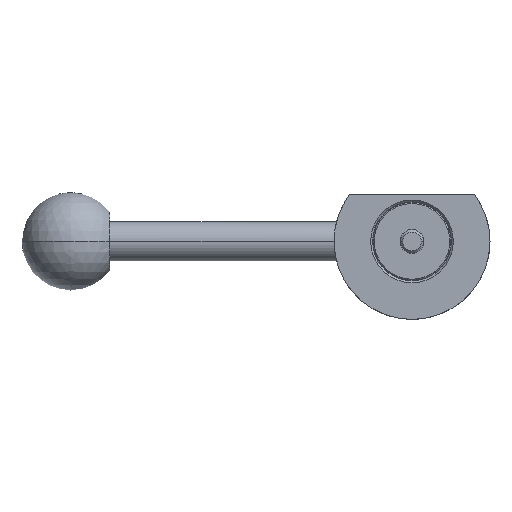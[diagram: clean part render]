
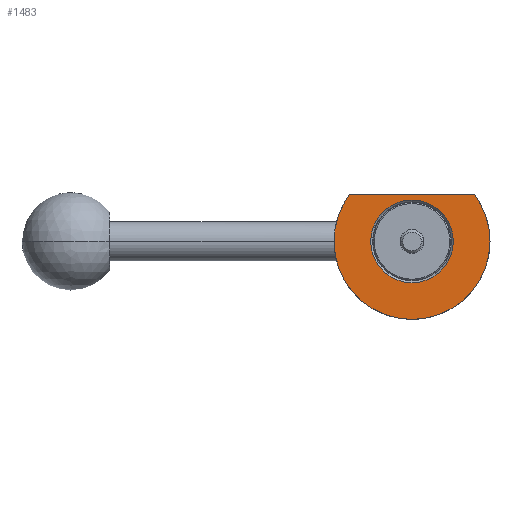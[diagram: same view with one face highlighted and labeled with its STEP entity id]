
A CAD part, front view. The second image highlights one B-rep face of the part: STEP entity #1483.
In plain terms, the highlighted planar face has unit normal (0, -1, 0).
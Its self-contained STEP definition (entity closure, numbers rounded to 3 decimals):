
#4 = EDGE_LOOP ( 'NONE', ( #317, #1073 ) ) ;
#27 = ORIENTED_EDGE ( 'NONE', *, *, #1178, .F. ) ;
#54 = EDGE_CURVE ( 'NONE', #1081, #1891, #519, .T. ) ;
#73 = ORIENTED_EDGE ( 'NONE', *, *, #54, .T. ) ;
#74 = CARTESIAN_POINT ( 'NONE',  ( -10.6, -10., 11.999 ) ) ;
#81 = EDGE_CURVE ( 'NONE', #1081, #1218, #392, .T. ) ;
#119 = DIRECTION ( 'NONE',  ( 0., 1., 0. ) ) ;
#133 = CARTESIAN_POINT ( 'NONE',  ( -16.001, -10., 11.999 ) ) ;
#135 = PLANE ( 'NONE',  #914 ) ;
#204 = ORIENTED_EDGE ( 'NONE', *, *, #81, .F. ) ;
#257 = DIRECTION ( 'NONE',  ( -1., 0., 0. ) ) ;
#312 = AXIS2_PLACEMENT_3D ( 'NONE', #390, #119, #257 ) ;
#317 = ORIENTED_EDGE ( 'NONE', *, *, #507, .T. ) ;
#325 = VECTOR ( 'NONE', #1162, 1000. ) ;
#390 = CARTESIAN_POINT ( 'NONE',  ( 0., -10., 0. ) ) ;
#392 = CIRCLE ( 'NONE', #671, 20. ) ;
#397 = EDGE_LOOP ( 'NONE', ( #204, #73, #963, #27 ) ) ;
#421 = CARTESIAN_POINT ( 'NONE',  ( -20., -10., 0. ) ) ;
#441 = CARTESIAN_POINT ( 'NONE',  ( -10.6, -10., 0. ) ) ;
#492 = VERTEX_POINT ( 'NONE', #1935 ) ;
#507 = EDGE_CURVE ( 'NONE', #492, #1551, #1007, .T. ) ;
#519 = LINE ( 'NONE', #74, #325 ) ;
#549 = AXIS2_PLACEMENT_3D ( 'NONE', #1319, #697, #1026 ) ;
#574 = CIRCLE ( 'NONE', #549, 10.6 ) ;
#588 = EDGE_CURVE ( 'NONE', #1551, #492, #574, .T. ) ;
#596 = DIRECTION ( 'NONE',  ( -1., 0., 0. ) ) ;
#671 = AXIS2_PLACEMENT_3D ( 'NONE', #1291, #1779, #1915 ) ;
#697 = DIRECTION ( 'NONE',  ( 0., 1., 0. ) ) ;
#705 = DIRECTION ( 'NONE',  ( -1., 0., 0. ) ) ;
#719 = VERTEX_POINT ( 'NONE', #421 ) ;
#739 = DIRECTION ( 'NONE',  ( 0., -1., 0. ) ) ;
#750 = FACE_OUTER_BOUND ( 'NONE', #397, .T. ) ;
#818 = CIRCLE ( 'NONE', #853, 20. ) ;
#853 = AXIS2_PLACEMENT_3D ( 'NONE', #1939, #1209, #596 ) ;
#914 = AXIS2_PLACEMENT_3D ( 'NONE', #441, #739, #1072 ) ;
#963 = ORIENTED_EDGE ( 'NONE', *, *, #1185, .F. ) ;
#1007 = CIRCLE ( 'NONE', #1446, 10.6 ) ;
#1026 = DIRECTION ( 'NONE',  ( -1., 0., 0. ) ) ;
#1072 = DIRECTION ( 'NONE',  ( 1., 0., 0. ) ) ;
#1073 = ORIENTED_EDGE ( 'NONE', *, *, #588, .T. ) ;
#1081 = VERTEX_POINT ( 'NONE', #1525 ) ;
#1162 = DIRECTION ( 'NONE',  ( -1., 0., 0. ) ) ;
#1178 = EDGE_CURVE ( 'NONE', #1218, #719, #1744, .T. ) ;
#1185 = EDGE_CURVE ( 'NONE', #719, #1891, #818, .T. ) ;
#1192 = FACE_BOUND ( 'NONE', #4, .T. ) ;
#1209 = DIRECTION ( 'NONE',  ( 0., 1., 0. ) ) ;
#1218 = VERTEX_POINT ( 'NONE', #1503 ) ;
#1291 = CARTESIAN_POINT ( 'NONE',  ( 0., -10., 0. ) ) ;
#1319 = CARTESIAN_POINT ( 'NONE',  ( 0., -10., 0. ) ) ;
#1446 = AXIS2_PLACEMENT_3D ( 'NONE', #1946, #1619, #705 ) ;
#1483 = ADVANCED_FACE ( 'NONE', ( #1192, #750 ), #135, .T. ) ;
#1503 = CARTESIAN_POINT ( 'NONE',  ( 20., -10., 0. ) ) ;
#1525 = CARTESIAN_POINT ( 'NONE',  ( 16.001, -10., 11.999 ) ) ;
#1551 = VERTEX_POINT ( 'NONE', #1638 ) ;
#1619 = DIRECTION ( 'NONE',  ( 0., 1., 0. ) ) ;
#1638 = CARTESIAN_POINT ( 'NONE',  ( -10.6, -10., 0. ) ) ;
#1744 = CIRCLE ( 'NONE', #312, 20. ) ;
#1779 = DIRECTION ( 'NONE',  ( 0., 1., 0. ) ) ;
#1891 = VERTEX_POINT ( 'NONE', #133 ) ;
#1915 = DIRECTION ( 'NONE',  ( -1., 0., 0. ) ) ;
#1935 = CARTESIAN_POINT ( 'NONE',  ( 10.6, -10., 0. ) ) ;
#1939 = CARTESIAN_POINT ( 'NONE',  ( 0., -10., 0. ) ) ;
#1946 = CARTESIAN_POINT ( 'NONE',  ( 0., -10., 0. ) ) ;
